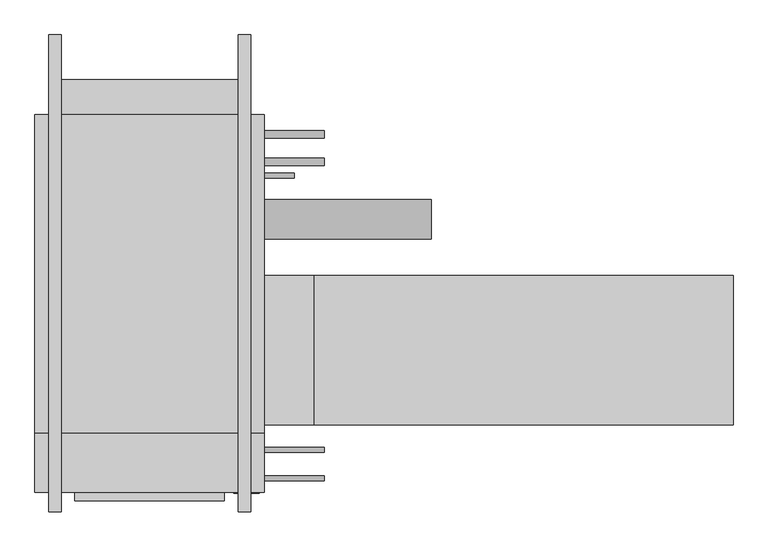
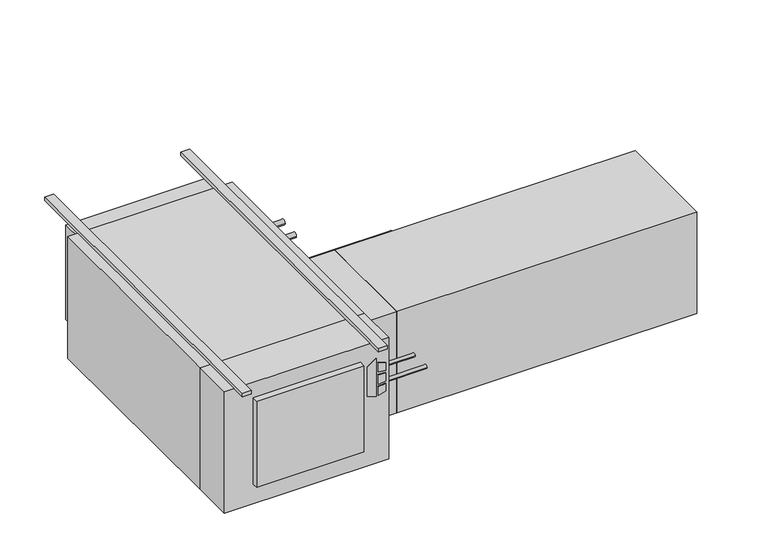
"""IFC4 building model written with IfcOpenShell, lengths in millimetres: proxy geometry."""

import ifcopenshell
import ifcopenshell.guid

model = None  # the IFC model being written
_history = None  # IfcOwnerHistory: only IFC2X3 demands one
_inside = {}  # id of a spatial element -> (the spatial element, [elements in it])
_under = {}  # id of a project, library or spatial element -> (it, [spatial elements below it])
_declared = {}  # id of a project -> (the project, [libraries it declares])
_typed = {}  # id of a type object -> (the type object, [elements of that type])
_made_of = {}  # id of a material, layer set ... -> (it, [elements and type objects made of it])


def new_model(schema):
    """Start an empty IFC model of exactly this schema.

    Asked for "IFC4X3", IfcOpenShell would pick the latest addendum, in which some entities
    have other attributes; the version numbers below select the first issue.
    IFC2X3 requires an IfcOwnerHistory on every rooted entity: one is made here for all.
    """
    global model, _history
    if schema == "IFC4X3":
        model = ifcopenshell.file(schema_version=(4, 3, 0, 0))
    else:
        model = ifcopenshell.file(schema=schema)
    _inside.clear()
    _under.clear()
    _declared.clear()
    _typed.clear()
    _made_of.clear()
    _history = None
    if model.schema == "IFC2X3":
        org = make("IfcOrganization", Name="unknown")
        user = make(
            "IfcPersonAndOrganization",
            ThePerson=make("IfcPerson", FamilyName="unknown"),
            TheOrganization=org,
        )
        app = make(
            "IfcApplication",
            ApplicationDeveloper=org,
            Version="unknown",
            ApplicationFullName="unknown",
            ApplicationIdentifier="unknown",
        )
        _history = make(
            "IfcOwnerHistory",
            OwningUser=user,
            OwningApplication=app,
            ChangeAction="ADDED",
            CreationDate=0,
        )
    return model


def make(cls, **values):
    """One entity of the class cls with the attributes given. An attribute that is None is left unset."""
    return model.create_entity(
        cls, **{name: value for name, value in values.items() if value is not None}
    )


def rooted(cls, **values):
    """An entity with a GlobalId (a new one), such as an element, a storey or a relation."""
    return make(cls, GlobalId=ifcopenshell.guid.new(), OwnerHistory=_history, **values)


def si_unit(unit_type, name, prefix=None):
    """IfcSIUnit, for example si_unit("LENGTHUNIT", "METRE", prefix="MILLI")."""
    return make("IfcSIUnit", UnitType=unit_type, Prefix=prefix, Name=name)


def assignment(units):
    """IfcUnitAssignment: the units of a project."""
    return None if units is None else make("IfcUnitAssignment", Units=units)


def point(xyz):
    """IfcCartesianPoint."""
    return None if xyz is None else make("IfcCartesianPoint", Coordinates=xyz)


def direction(xyz):
    """IfcDirection."""
    return None if xyz is None else make("IfcDirection", DirectionRatios=xyz)


def frame(location, z_axis=None, x_axis=None):
    """IfcAxis2Placement3D, a coordinate frame: its origin and axes. An axis left out is left unset."""
    return make(
        "IfcAxis2Placement3D",
        Location=point(location),
        Axis=direction(z_axis),
        RefDirection=direction(x_axis),
    )


def frame_2d(location, x_axis=None):
    """IfcAxis2Placement2D, a coordinate frame in the plane: its origin and x axis."""
    return make(
        "IfcAxis2Placement2D", Location=point(location), RefDirection=direction(x_axis)
    )


def origin():
    """The frame at (0, 0, 0) with its axes left unset."""
    return frame((0.0, 0.0, 0.0))


def origin_with_axes():
    """The frame at (0, 0, 0) with the z axis (0, 0, 1) and the x axis (1, 0, 0) written out."""
    return frame((0.0, 0.0, 0.0), z_axis=(0.0, 0.0, 1.0), x_axis=(1.0, 0.0, 0.0))


def place(relative_to, where):
    """IfcLocalPlacement: puts the frame where relative to a parent placement (None: the world)."""
    return make(
        "IfcLocalPlacement", PlacementRelTo=relative_to, RelativePlacement=where
    )


def context(
    kind, dimensions, precision=None, world=None, true_north=None, identifier=None
):
    """IfcGeometricRepresentationContext, for example the 3D "Model" context."""
    return make(
        "IfcGeometricRepresentationContext",
        ContextIdentifier=identifier,
        ContextType=kind,
        CoordinateSpaceDimension=dimensions,
        Precision=precision,
        WorldCoordinateSystem=world,
        TrueNorth=true_north,
    )


def project(units=None, contexts=None):
    """IfcProject with its units and contexts."""
    return rooted(
        "IfcProject",
        Name="project",
        RepresentationContexts=contexts,
        UnitsInContext=assignment(units),
    )


def spatial(cls, under=None, at=None, **own):
    """A site, building, storey or space (cls), placed at a placement, below another one or the project."""
    s = rooted(cls, ObjectPlacement=at, **own)
    if under is not None:
        _under.setdefault(under.id(), (under, []))[1].append(s)
    return s


def polyline(points):
    """IfcPolyline through the points."""
    return make("IfcPolyline", Points=[point(p) for p in points])


def circle_curve(where, radius):
    """IfcCircle in the frame where."""
    return make("IfcCircle", Position=where, Radius=radius)


def trimmed(basis, trim1, trim2, sense, master):
    """IfcTrimmedCurve: the piece of a basis curve between two trims."""
    return make(
        "IfcTrimmedCurve",
        BasisCurve=basis,
        Trim1=trim1,
        Trim2=trim2,
        SenseAgreement=sense,
        MasterRepresentation=master,
    )


def segment(curve, same_sense, transition):
    """IfcCompositeCurveSegment."""
    return make(
        "IfcCompositeCurveSegment",
        Transition=transition,
        SameSense=same_sense,
        ParentCurve=curve,
    )


def composite_curve(segments, self_intersect=None):
    """IfcCompositeCurve: segments joined end to end."""
    return make("IfcCompositeCurve", Segments=segments, SelfIntersect=self_intersect)


def outline(outer, holes=None, kind="AREA"):
    """IfcArbitraryClosedProfileDef: a profile drawn as a closed curve; with holes, ...WithVoids."""
    if holes is None:
        return make("IfcArbitraryClosedProfileDef", ProfileType=kind, OuterCurve=outer)
    return make(
        "IfcArbitraryProfileDefWithVoids",
        ProfileType=kind,
        OuterCurve=outer,
        InnerCurves=holes,
    )


def extrude(swept, where, along, depth):
    """IfcExtrudedAreaSolid: the profile swept, set in the frame where, extruded along a direction by depth."""
    return make(
        "IfcExtrudedAreaSolid",
        SweptArea=swept,
        Position=where,
        ExtrudedDirection=direction(along),
        Depth=depth,
    )


def shape(context_of_items, identifier, shape_type, items):
    """IfcShapeRepresentation: the items that make up one representation, for example the "Body"."""
    return make(
        "IfcShapeRepresentation",
        ContextOfItems=context_of_items,
        RepresentationIdentifier=identifier,
        RepresentationType=shape_type,
        Items=items,
    )


def source(mapping_origin, context_of_items, identifier, shape_type, items):
    """IfcRepresentationMap: a shape defined once, which mapped items show again and again."""
    return make(
        "IfcRepresentationMap",
        MappingOrigin=mapping_origin,
        MappedRepresentation=shape(context_of_items, identifier, shape_type, items),
    )


def transform(
    local_origin,
    x_axis=None,
    y_axis=None,
    z_axis=None,
    scale=None,
    scale2=None,
    scale3=None,
    uniform=True,
):
    """IfcCartesianTransformationOperator3D, or its non-uniform kind. x_axis, y_axis, z_axis: its Axis1, 2, 3."""
    if uniform:
        return make(
            "IfcCartesianTransformationOperator3D",
            Axis1=direction(x_axis),
            Axis2=direction(y_axis),
            LocalOrigin=point(local_origin),
            Scale=scale,
            Axis3=direction(z_axis),
        )
    return make(
        "IfcCartesianTransformationOperator3DnonUniform",
        Axis1=direction(x_axis),
        Axis2=direction(y_axis),
        LocalOrigin=point(local_origin),
        Scale=scale,
        Axis3=direction(z_axis),
        Scale2=scale2,
        Scale3=scale3,
    )


def mapped(mapping_source, mapping_target):
    """IfcMappedItem: shows the shape of a source again, moved by a transform."""
    return make(
        "IfcMappedItem", MappingSource=mapping_source, MappingTarget=mapping_target
    )


def made_of(thing, what):
    """Note that an element or type object is made of a material, layer set ...; save() writes the relation."""
    if what is not None:
        _made_of.setdefault(what.id(), (what, []))[1].append(thing)
    return thing


def element(
    cls,
    number,
    at=None,
    inside=None,
    cuts=None,
    type_object=None,
    material=None,
    context=None,
    identifier="Body",
    shape_type=None,
    held_by="IfcProductDefinitionShape",
    body=None,
    shapes=None,
    **own,
):
    """One element of the class cls, such as IfcWall. Its Tag is "e" and its number.

    at: its placement. inside: the storey or other place that contains it. cuts: it is an
    opening in that element (IfcRelVoidsElement). A single representation is given by context,
    identifier, shape_type and body (its items); several are given by shapes. held_by: the class
    of the entity that holds the representations. save() writes the other relations.
    """
    e = rooted(cls, Tag="e%d" % number, ObjectPlacement=at, **own)
    if body is not None:
        shapes = [shape(context, identifier, shape_type, body)]
    if shapes is not None:
        e.Representation = make(held_by, Representations=shapes)
    if inside is not None:
        _inside.setdefault(inside.id(), (inside, []))[1].append(e)
    if cuts is not None:
        rooted(
            "IfcRelVoidsElement", RelatingBuildingElement=cuts, RelatedOpeningElement=e
        )
    if type_object is not None:
        _typed.setdefault(type_object.id(), (type_object, []))[1].append(e)
    return made_of(e, material)


def aggregate(whole, parts):
    """IfcRelAggregates: a whole, such as a stair, and the parts it consists of."""
    return rooted("IfcRelAggregates", RelatingObject=whole, RelatedObjects=parts)


def save(model, path):
    """Write the relations noted so far, then the file.

    IfcRelAggregates (storeys below a building ...), IfcRelContainedInSpatialStructure (elements
    in a storey), IfcRelDefinesByType, IfcRelAssociatesMaterial and IfcRelDeclares: one each for
    every whole, place, type object, material and project.
    """
    for whole, parts in _under.values():
        aggregate(whole, parts)
    for where, things in _inside.values():
        rooted(
            "IfcRelContainedInSpatialStructure",
            RelatedElements=things,
            RelatingStructure=where,
        )
    for kind, things in _typed.values():
        rooted("IfcRelDefinesByType", RelatedObjects=things, RelatingType=kind)
    for what, things in _made_of.values():
        rooted("IfcRelAssociatesMaterial", RelatedObjects=things, RelatingMaterial=what)
    for by, libraries in _declared.values():
        rooted("IfcRelDeclares", RelatingContext=by, RelatedDefinitions=libraries)
    model.write(path)


def mechanical_equipment_cb3144da(model_context):
    return source(origin(), model_context, "Body", "SweptSolid", [
        extrude(outline(polyline([(-193.2519297, 366.7868862), (-203.2, 398.9602728), (-61.0290756, 398.9602728), (-84.0510817, 366.7868862), (-193.2519297, 366.7868862)])), frame((0.0, -797.052, 0.0), z_axis=(0.0, 1.0, 0.0), x_axis=(0.0, 0.0, 1.0)), (0.0, 0.0, 1.0), 3.175),
        extrude(outline(polyline([(-114.2526443, 405.7186058), (-117.4550368, 431.8), (-88.2261958, 431.8), (-80.1617807, 405.7186058), (-114.2526443, 405.7186058)])), frame((0.0, -797.052, 0.0), z_axis=(0.0, 1.0, 0.0), x_axis=(0.0, 0.0, 1.0)), (0.0, 0.0, 1.0), 3.175),
        extrude(outline(polyline([(-166.1161712, 431.8), (-169.7816721, 405.7186058), (-203.2, 405.7186058), (-194.5657628, 431.8), (-166.1161712, 431.8)])), frame((0.0, -797.052, 0.0), z_axis=(0.0, 1.0, 0.0), x_axis=(0.0, 0.0, 1.0)), (0.0, 0.0, 1.0), 3.175),
        extrude(outline(polyline([(-126.8010097, 431.8), (-124.5191834, 405.7186058), (-160.4567319, 405.7186058), (-157.7154669, 431.8), (-126.8010097, 431.8)])), frame((0.0, -797.052, 0.0), z_axis=(0.0, 1.0, 0.0), x_axis=(0.0, 0.0, 1.0)), (0.0, 0.0, 1.0), 3.175),
        extrude(outline(polyline([(444.5, -793.877), (-139.7, -793.877), (-139.7, -644.525), (444.5, -644.525), (444.5, -793.877)])), frame((0.0, 0.0, -457.2), z_axis=(0.0, 0.0, 1.0), x_axis=(1.0, 0.0, 0.0)), (0.0, 0.0, 1.0), 457.2),
        extrude(outline(polyline([(342.9, -816.229), (-38.1, -816.229), (-38.1, -793.877), (342.9, -793.877), (342.9, -816.229)])), frame((0.0, 0.0, -381.0), z_axis=(0.0, 0.0, 1.0), x_axis=(1.0, 0.0, 0.0)), (0.0, 0.0, 1.0), 323.85),
        extrude(outline(polyline([(1638.3, -241.3), (1638.3, -622.3), (571.5, -622.3), (571.5, -241.3), (1638.3, -241.3)])), frame((0.0, 0.0, -431.8), z_axis=(0.0, 0.0, 1.0), x_axis=(1.0, 0.0, 0.0)), (0.0, 0.0, 1.0), 381.0),
        extrude(outline(polyline([(571.5, -241.3), (571.5, -622.3), (444.5, -622.3), (444.5, -241.3), (571.5, -241.3)])), frame((0.0, 0.0, -431.8), z_axis=(0.0, 0.0, 1.0), x_axis=(1.0, 0.0, 0.0)), (0.0, 0.0, 1.0), 381.0),
        extrude(outline(composite_curve([segment(trimmed(circle_curve(frame_2d((-758.825, -184.15)), 6.35), [point((-752.475, -184.15))], [point((-765.175, -184.15))], False, "CARTESIAN"), True, "CONTINUOUS"), segment(trimmed(circle_curve(frame_2d((-758.825, -184.15)), 6.35), [point((-765.175, -184.15))], [point((-752.475, -184.15))], False, "CARTESIAN"), True, "CONTINUOUS")], self_intersect=False)), frame((444.5, 0.0, 0.0), z_axis=(1.0, 0.0, 0.0), x_axis=(0.0, 1.0, 0.0)), (0.0, 0.0, 1.0), 152.4),
        extrude(outline(composite_curve([segment(trimmed(circle_curve(frame_2d((-685.8, -184.15)), 6.35), [point((-679.45, -184.15))], [point((-692.15, -184.15))], False, "CARTESIAN"), True, "CONTINUOUS"), segment(trimmed(circle_curve(frame_2d((-685.8, -184.15)), 6.35), [point((-692.15, -184.15))], [point((-679.45, -184.15))], False, "CARTESIAN"), True, "CONTINUOUS")], self_intersect=False)), frame((444.5, 0.0, 0.0), z_axis=(1.0, 0.0, 0.0), x_axis=(0.0, 1.0, 0.0)), (0.0, 0.0, 1.0), 152.4),
        extrude(outline(composite_curve([segment(trimmed(circle_curve(frame_2d((117.475, -171.45)), 9.525), [point((127.0, -171.45))], [point((107.95, -171.45))], False, "CARTESIAN"), True, "CONTINUOUS"), segment(trimmed(circle_curve(frame_2d((117.475, -171.45)), 9.525), [point((107.95, -171.45))], [point((127.0, -171.45))], False, "CARTESIAN"), True, "CONTINUOUS")], self_intersect=False)), frame((444.5, 0.0, 0.0), z_axis=(1.0, 0.0, 0.0), x_axis=(0.0, 1.0, 0.0)), (0.0, 0.0, 1.0), 152.4),
        extrude(outline(composite_curve([segment(trimmed(circle_curve(frame_2d((47.625, -177.8)), 9.525), [point((57.15, -177.8))], [point((38.1, -177.8))], False, "CARTESIAN"), True, "CONTINUOUS"), segment(trimmed(circle_curve(frame_2d((47.625, -177.8)), 9.525), [point((38.1, -177.8))], [point((57.15, -177.8))], False, "CARTESIAN"), True, "CONTINUOUS")], self_intersect=False)), frame((444.5, 0.0, 0.0), z_axis=(1.0, 0.0, 0.0), x_axis=(0.0, 1.0, 0.0)), (0.0, 0.0, 1.0), 152.4),
        extrude(outline(composite_curve([segment(trimmed(circle_curve(frame_2d((-98.4896516, -228.6360165)), 50.8), [point((-47.6896516, -228.6360165))], [point((-149.2896516, -228.6360165))], False, "CARTESIAN"), True, "CONTINUOUS"), segment(trimmed(circle_curve(frame_2d((-98.4896516, -228.6360165)), 50.8), [point((-149.2896516, -228.6360165))], [point((-47.6896516, -228.6360165))], False, "CARTESIAN"), True, "CONTINUOUS")], self_intersect=False)), frame((444.5, 0.0, 0.0), z_axis=(1.0, 0.0, 0.0), x_axis=(0.0, 1.0, 0.0)), (0.0, 0.0, 1.0), 425.45),
        extrude(outline(composite_curve([segment(trimmed(circle_curve(frame_2d((12.7, -409.575)), 6.35), [point((19.05, -409.575))], [point((6.35, -409.575))], False, "CARTESIAN"), True, "CONTINUOUS"), segment(trimmed(circle_curve(frame_2d((12.7, -409.575)), 6.35), [point((6.35, -409.575))], [point((19.05, -409.575))], False, "CARTESIAN"), True, "CONTINUOUS")], self_intersect=False)), frame((444.5, 0.0, 0.0), z_axis=(1.0, 0.0, 0.0), x_axis=(0.0, 1.0, 0.0)), (0.0, 0.0, 1.0), 76.2),
        extrude(outline(polyline([(444.5, 168.275), (444.5, -644.525), (-139.7, -644.525), (-139.7, 168.275), (444.5, 168.275)])), frame((0.0, 0.0, -457.2), z_axis=(0.0, 0.0, 1.0), x_axis=(1.0, 0.0, 0.0)), (0.0, 0.0, 1.0), 457.2),
        extrude(outline(polyline([(-95.25, 257.175), (400.05, 257.175), (400.05, 168.275), (-95.25, 168.275), (-95.25, 257.175)])), frame((0.0, 0.0, -381.0), z_axis=(0.0, 0.0, 1.0), x_axis=(1.0, 0.0, 0.0)), (0.0, 0.0, 1.0), 355.6),
        extrude(outline(polyline([(-73.025, 371.475), (-73.025, -844.677), (-104.775, -844.677), (-104.775, 371.475), (-73.025, 371.475)])), origin_with_axes(), (0.0, 0.0, 1.0), 12.7),
        extrude(outline(polyline([(409.575, 371.475), (409.575, -844.677), (377.825, -844.677), (377.825, 371.475), (409.575, 371.475)])), origin_with_axes(), (0.0, 0.0, 1.0), 12.7),
    ])


if __name__ == "__main__":
    model = new_model("IFC4")
    model_context = context("Model", 3, world=origin())
    ifc_project = project(units=[si_unit("LENGTHUNIT", "METRE", prefix="MILLI")], contexts=[model_context])
    site = spatial("IfcSite", under=ifc_project)
    building = spatial("IfcBuilding", under=site)
    placement = place(None, origin())
    mechanical_equipment_shape = mechanical_equipment_cb3144da(model_context)
    element("IfcBuildingElementProxy", 1, Name="High_Capacity_Horizontal_Cabinet_Fan_Coil_Unit_-_HTY_-_IEC_-_4-Pipe_WO-Attenuator_RH Side_2022 : Size 06 - 115v/60Hz/1Ph - 4/1 Coil - 4\" AirIn", ObjectType="High_Capacity_Horizontal_Cabinet_Fan_Coil_Unit_-_HTY_-_IEC_-_4-Pipe_WO-Attenuator_RH Side_2022 : Size 06 - 115v/60Hz/1Ph - 4/1 Coil - 4\" AirIn", at=placement, inside=building, context=model_context, shape_type="MappedRepresentation", body=[
        mapped(mechanical_equipment_shape, transform((0.0, 0.0, 0.0), x_axis=(1.0, 0.0, 0.0), y_axis=(0.0, 1.0, 0.0), z_axis=(0.0, 0.0, 1.0))),
    ])
    save(model, "model.ifc")
